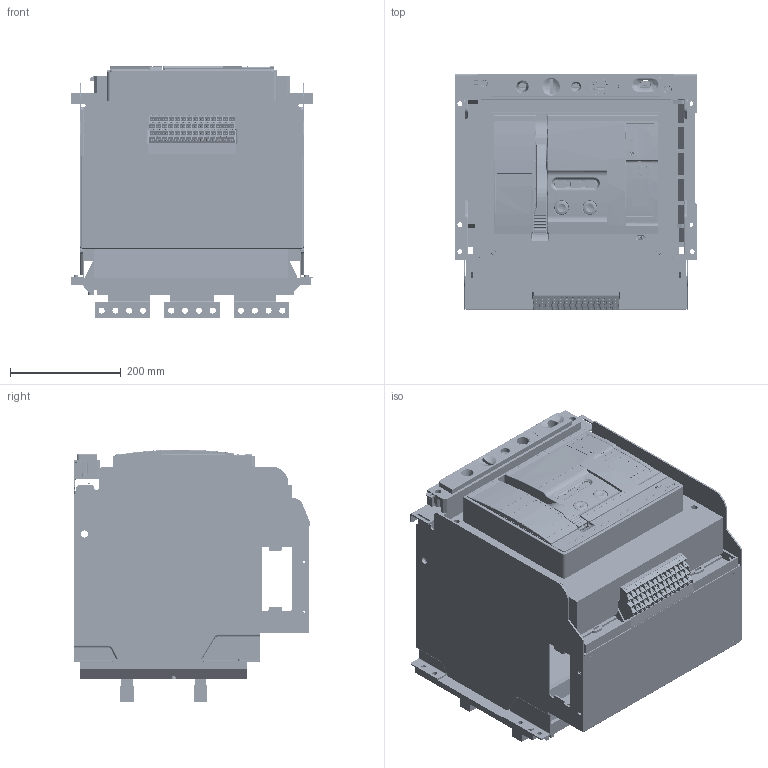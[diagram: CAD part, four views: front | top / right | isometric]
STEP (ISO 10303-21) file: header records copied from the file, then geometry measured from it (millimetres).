
FILE_DESCRIPTION(/* description */ (''),/* implementation_level */ '2;1');
FILE_NAME(/* name */ 'C:/Users/carlos.gonzalez/Documents/ADRIAN_TEMP_DRAWING/Ex9A32_3P_3200_DO_PB_Drawing.step',/* time_stamp */ '2021-10-14T13:01:51+02:00',/* author */ (''),/* organization */ (''),/* preprocessor_version */ 'ST-DEVELOPER v18.1',/* originating_system */ 'Autodesk Translation Framework v10.10.0.1391',/* authorisation */ '');
FILE_SCHEMA (('AUTOMOTIVE_DESIGN { 1 0 10303 214 3 1 1 }'));
Products named in the file (58): Ex9A32_3P_3200_DO; Auxiliary terminals; 5ZTD-558-695-4000_ASM; 5ZTD-558-712_ASM; 5ZTD-558-712_ASM_1; 5ZTD-558-712_ASM_2; 5ZTD-558-712_ASM_3; 5ZTD-558-712_ASM_4; 5ZTD-558-712_ASM_5; 5ZTD-558-712_ASM_6; 5ZTD-558-712_ASM_7; 5ZTD-558-712_ASM_8; 5ZTD-558-712_ASM_9; 5ZTD-558-712_ASM_10; 5ZTD-558-712_ASM_11; 5ZTD-558-712_ASM_12; 5ZTD-558-712_ASM_13; 8ZTD-024-837; 8ZTD-557-514; 8ZTD-557-515; 8ZTD-557-516; 8ZTD-557-517; M3_GB6170; M3X8_GB818; 8ZTD-141-185; 8ZTD-141-184; 8ZTD-860-699; 8ZTD-064-136; Main terminals; 8580A0412010; 8580A0412011; Internal parts; 8050A0306120T; 8300A0306003; 8300A0101006; 40-3P-DIBAN02; 8050A0306121T; 8050A0306126T; Cover; 8253A0101010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
Assembly tree (262 placements, depth 5):
  Ex9A32_3P_3200_DO
    Auxiliary terminals
      5ZTD-558-695-4000_ASM
        5ZTD-558-712_ASM
          8ZTD-024-837
          8ZTD-557-514
          8ZTD-557-515
          8ZTD-557-516
          8ZTD-557-517
          M3_GB6170  x4
          M3X8_GB818  x4
          8ZTD-141-185
          8ZTD-141-184
        5ZTD-558-712_ASM_1
          8ZTD-024-837
          8ZTD-557-514
          8ZTD-557-515
          8ZTD-557-516
          8ZTD-557-517
          M3_GB6170  x4
          M3X8_GB818  x4
          8ZTD-141-185
          8ZTD-141-184
        5ZTD-558-712_ASM_2
          8ZTD-024-837
          8ZTD-557-514
          8ZTD-557-515
          8ZTD-557-516
          8ZTD-557-517
          M3_GB6170  x4
          M3X8_GB818  x4
          8ZTD-141-185
          8ZTD-141-184
        5ZTD-558-712_ASM_3
          8ZTD-024-837
          8ZTD-557-514
          8ZTD-557-515
          8ZTD-557-516
          8ZTD-557-517
          M3_GB6170  x4
          M3X8_GB818  x4
          8ZTD-141-185
          8ZTD-141-184
        5ZTD-558-712_ASM_4
          8ZTD-024-837
          8ZTD-557-514
          8ZTD-557-515
          8ZTD-557-516
          8ZTD-557-517
          M3_GB6170  x4
          M3X8_GB818  x4
          8ZTD-141-185
          8ZTD-141-184
        5ZTD-558-712_ASM_5
          8ZTD-024-837
          8ZTD-557-514
          8ZTD-557-515
          8ZTD-557-516
          8ZTD-557-517
          M3_GB6170  x4
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Bounding box: 439 x 428.53 x 456.99 mm (x, y, z)
Volume: 13949134.6 mm3; surface area: 3506916.1 mm2
Topology: 241 solids, 307 shells, 18823 faces, 50044 edges, 32500 vertices
Faces by surface type: plane 14028, cylinder 2577, bspline 875, cone 831, torus 393, sphere 119
Full cylindrical faces by diameter (mm): 2 x539, 2.1 x2, 2.246 x56, 2.5 x3, 2.6 x2, 3 x86, 3.2 x6, 3.3 x1, 3.5 x45, 4 x85, 4.3 x1, 4.4 x2, 4.5 x3, 5 x17, 5.008 x1, 5.5 x1, 6 x5, 6.1 x1, 6.5 x5, 7 x7, 8 x2, 8.3 x2, 8.5 x24, 9 x12, 10 x24, 11 x27, 12 x4, 12.5 x1, 13 x5, 14 x3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
Entity records: 238621 total; most frequent: CARTESIAN_POINT 94104, ORIENTED_EDGE 30230, DIRECTION 28499, EDGE_CURVE 15159, LINE 10823, VECTOR 10823, VERTEX_POINT 9812, AXIS2_PLACEMENT_3D 8838
